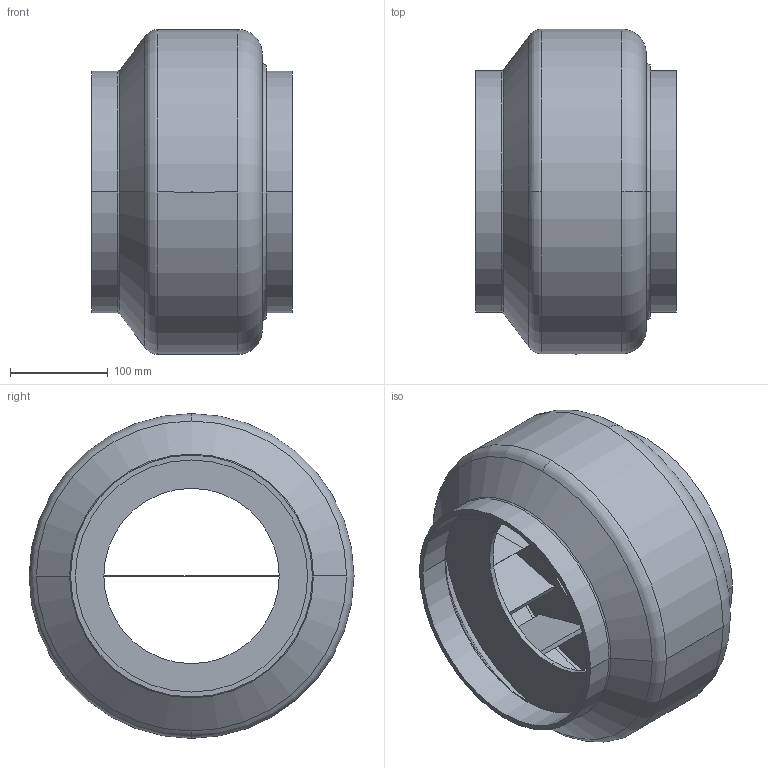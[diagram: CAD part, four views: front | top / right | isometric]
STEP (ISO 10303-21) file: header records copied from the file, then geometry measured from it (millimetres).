
FILE_DESCRIPTION(('STEP AP214'),'1');
FILE_NAME('5145880500.stp','2019-05-13T14:54:53',('TraceParts'),('TraceParts S.A.'),'Spatial InterOp 3D',' ',' ');
FILE_SCHEMA(('AUTOMOTIVE_DESIGN { 1 0 10303 214 1 1 1 1 }'));
Length unit declared in the file: millimetre
Products named in the file (1): 5145880500
Bounding box: 206 x 334 x 333 mm (x, y, z)
Volume: 2134689.9 mm3; surface area: 814039.1 mm2
Topology: 1 solids, 1 shells, 107 faces, 298 edges, 199 vertices
Faces by surface type: plane 59, cylinder 28, torus 16, cone 4
Entity records: 4837 total; most frequent: CARTESIAN_POINT 1054, DIRECTION 615, ORIENTED_EDGE 596, EDGE_CURVE 298, AXIS2_PLACEMENT_3D 218, VERTEX_POINT 199, LINE 179, VECTOR 179
